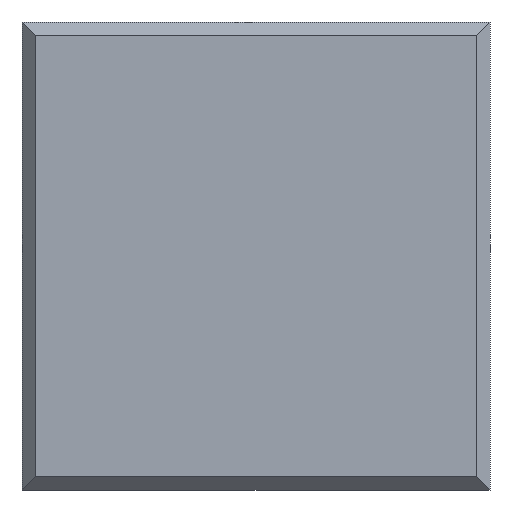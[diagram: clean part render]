
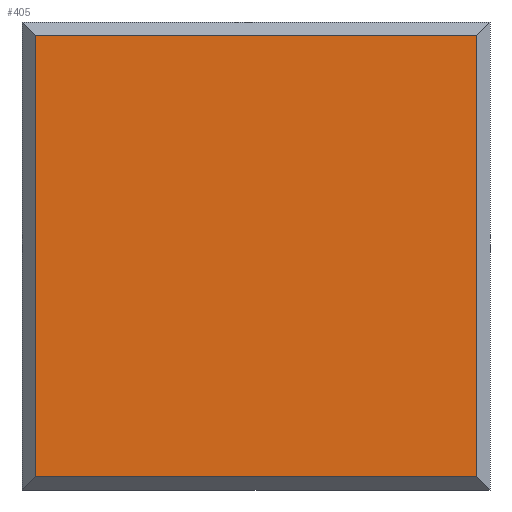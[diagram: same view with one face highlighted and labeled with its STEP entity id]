
A CAD part, front view. The second image highlights one B-rep face of the part: STEP entity #405.
In plain terms, the highlighted planar face has unit normal (0, -1, 0).
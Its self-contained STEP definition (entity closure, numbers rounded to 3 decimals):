
#12 = LINE ( 'NONE', #133, #589 ) ;
#36 = EDGE_LOOP ( 'NONE', ( #471, #408, #292, #359 ) ) ;
#54 = LINE ( 'NONE', #634, #816 ) ;
#133 = CARTESIAN_POINT ( 'NONE',  ( 16.5, -14., 17.5 ) ) ;
#159 = VERTEX_POINT ( 'NONE', #825 ) ;
#261 = EDGE_CURVE ( 'NONE', #747, #451, #328, .T. ) ;
#292 = ORIENTED_EDGE ( 'NONE', *, *, #489, .F. ) ;
#328 = LINE ( 'NONE', #737, #866 ) ;
#346 = AXIS2_PLACEMENT_3D ( 'NONE', #937, #880, #587 ) ;
#359 = ORIENTED_EDGE ( 'NONE', *, *, #673, .F. ) ;
#389 = DIRECTION ( 'NONE',  ( -1., 0., 0. ) ) ;
#397 = EDGE_CURVE ( 'NONE', #747, #435, #54, .T. ) ;
#405 = ADVANCED_FACE ( 'NONE', ( #776 ), #942, .T. ) ;
#408 = ORIENTED_EDGE ( 'NONE', *, *, #261, .T. ) ;
#413 = CARTESIAN_POINT ( 'NONE',  ( 17.5, -14., -16.5 ) ) ;
#435 = VERTEX_POINT ( 'NONE', #490 ) ;
#451 = VERTEX_POINT ( 'NONE', #566 ) ;
#471 = ORIENTED_EDGE ( 'NONE', *, *, #397, .F. ) ;
#489 = EDGE_CURVE ( 'NONE', #159, #451, #496, .T. ) ;
#490 = CARTESIAN_POINT ( 'NONE',  ( 16.5, -14., 16.5 ) ) ;
#496 = LINE ( 'NONE', #413, #899 ) ;
#566 = CARTESIAN_POINT ( 'NONE',  ( -16.5, -14., -16.5 ) ) ;
#587 = DIRECTION ( 'NONE',  ( -1., 0., 0. ) ) ;
#589 = VECTOR ( 'NONE', #655, 1000. ) ;
#634 = CARTESIAN_POINT ( 'NONE',  ( 17.5, -14., 16.5 ) ) ;
#655 = DIRECTION ( 'NONE',  ( 0., 0., -1. ) ) ;
#673 = EDGE_CURVE ( 'NONE', #435, #159, #12, .T. ) ;
#713 = DIRECTION ( 'NONE',  ( 1., 0., 0. ) ) ;
#737 = CARTESIAN_POINT ( 'NONE',  ( -16.5, -14., 16.5 ) ) ;
#747 = VERTEX_POINT ( 'NONE', #797 ) ;
#767 = DIRECTION ( 'NONE',  ( 0., 0., -1. ) ) ;
#776 = FACE_OUTER_BOUND ( 'NONE', #36, .T. ) ;
#797 = CARTESIAN_POINT ( 'NONE',  ( -16.5, -14., 16.5 ) ) ;
#816 = VECTOR ( 'NONE', #713, 1000. ) ;
#825 = CARTESIAN_POINT ( 'NONE',  ( 16.5, -14., -16.5 ) ) ;
#866 = VECTOR ( 'NONE', #767, 1000. ) ;
#880 = DIRECTION ( 'NONE',  ( 0., -1., 0. ) ) ;
#899 = VECTOR ( 'NONE', #389, 1000. ) ;
#937 = CARTESIAN_POINT ( 'NONE',  ( 16.5, -14., 16.5 ) ) ;
#942 = PLANE ( 'NONE',  #346 ) ;
